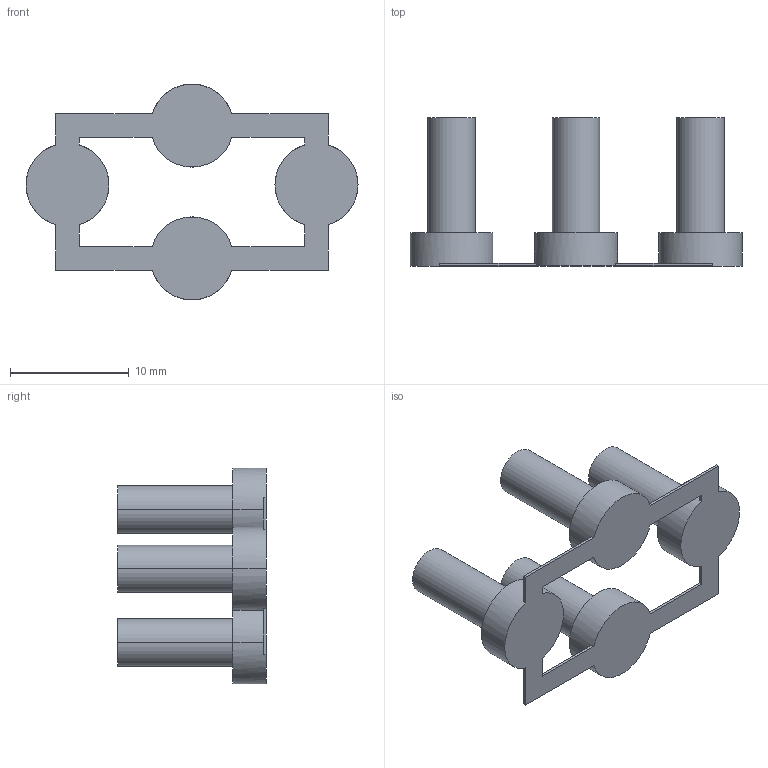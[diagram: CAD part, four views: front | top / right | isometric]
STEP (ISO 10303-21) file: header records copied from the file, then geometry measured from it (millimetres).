
FILE_DESCRIPTION((''),'2;1');
FILE_NAME('BUTTON','2026-04-19T',('Administrator'),(''),'PRO/ENGINEER BY PARAMETRIC TECHNOLOGY CORPORATION, 2013150','PRO/ENGINEER BY PARAMETRIC TECHNOLOGY CORPORATION, 2013150','');
FILE_SCHEMA(('CONFIG_CONTROL_DESIGN'));
Length unit declared in the file: millimetre
Products named in the file (1): BUTTON
Bounding box: 28 x 12.5 x 18.2 mm (x, y, z)
Volume: 935.3 mm3; surface area: 1209.6 mm2
Topology: 1 solids, 1 shells, 123 faces, 333 edges, 222 vertices
Faces by surface type: plane 107, cylinder 16
Entity records: 3877 total; most frequent: CARTESIAN_POINT 678, ORIENTED_EDGE 666, DIRECTION 627, EDGE_CURVE 333, VECTOR 285, LINE 285, VERTEX_POINT 222, AXIS2_PLACEMENT_3D 171
